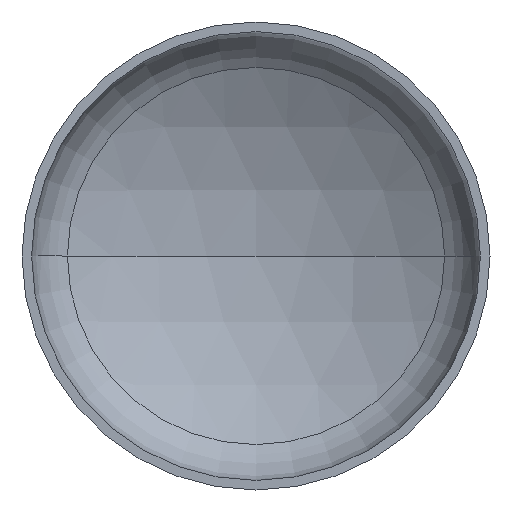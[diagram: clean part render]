
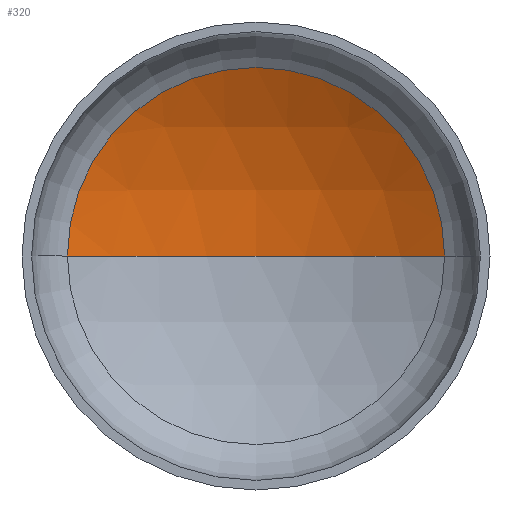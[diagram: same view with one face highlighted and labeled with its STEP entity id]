
A CAD part, front view. The second image highlights one B-rep face of the part: STEP entity #320.
In plain terms, the highlighted spherical face has radius 2880 mm.
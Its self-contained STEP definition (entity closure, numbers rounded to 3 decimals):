
#1 = AXIS2_PLACEMENT_3D ( 'NONE', #145, #140, #139 ) ;
#5 = AXIS2_PLACEMENT_3D ( 'NONE', #305, #308, #126 ) ;
#7 = AXIS2_PLACEMENT_3D ( 'NONE', #213, #211, #278 ) ;
#8 = ORIENTED_EDGE ( 'NONE', *, *, #386, .T. ) ;
#17 = VERTEX_POINT ( 'NONE', #285 ) ;
#20 = AXIS2_PLACEMENT_3D ( 'NONE', #291, #287, #329 ) ;
#34 = EDGE_LOOP ( 'NONE', ( #79, #70, #8 ) ) ;
#47 = VERTEX_POINT ( 'NONE', #391 ) ;
#50 = VERTEX_POINT ( 'NONE', #380 ) ;
#70 = ORIENTED_EDGE ( 'NONE', *, *, #370, .T. ) ;
#79 = ORIENTED_EDGE ( 'NONE', *, *, #360, .F. ) ;
#126 = DIRECTION ( 'NONE',  ( -1., 0., 0. ) ) ;
#139 = DIRECTION ( 'NONE',  ( 1., 0., 0. ) ) ;
#140 = DIRECTION ( 'NONE',  ( 0., -1., 0. ) ) ;
#145 = CARTESIAN_POINT ( 'NONE',  ( 0., 599.467, 0. ) ) ;
#200 = CIRCLE ( 'NONE', #7, 2880. ) ;
#211 = DIRECTION ( 'NONE',  ( 0., 0., 1. ) ) ;
#213 = CARTESIAN_POINT ( 'NONE',  ( 0., -1888.578, 0. ) ) ;
#224 = FACE_OUTER_BOUND ( 'NONE', #34, .T. ) ;
#258 = CIRCLE ( 'NONE', #1, 1450.529 ) ;
#267 = CIRCLE ( 'NONE', #5, 2880. ) ;
#278 = DIRECTION ( 'NONE',  ( 1., 0., 0. ) ) ;
#285 = CARTESIAN_POINT ( 'NONE',  ( 1450.529, 599.467, 0. ) ) ;
#287 = DIRECTION ( 'NONE',  ( 0., 0., -1. ) ) ;
#291 = CARTESIAN_POINT ( 'NONE',  ( 0., -1888.578, 0. ) ) ;
#305 = CARTESIAN_POINT ( 'NONE',  ( 0., -1888.578, 0. ) ) ;
#308 = DIRECTION ( 'NONE',  ( 0., 0., -1. ) ) ;
#320 = ADVANCED_FACE ( 'NONE', ( #224 ), #402, .F. ) ;
#329 = DIRECTION ( 'NONE',  ( -1., 0., 0. ) ) ;
#360 = EDGE_CURVE ( 'NONE', #47, #50, #200, .T. ) ;
#370 = EDGE_CURVE ( 'NONE', #47, #17, #267, .T. ) ;
#380 = CARTESIAN_POINT ( 'NONE',  ( -1450.529, 599.467, 0. ) ) ;
#386 = EDGE_CURVE ( 'NONE', #17, #50, #258, .T. ) ;
#391 = CARTESIAN_POINT ( 'NONE',  ( 0., 991.422, 0. ) ) ;
#402 = SPHERICAL_SURFACE ( 'NONE', #20, 2880. ) ;
